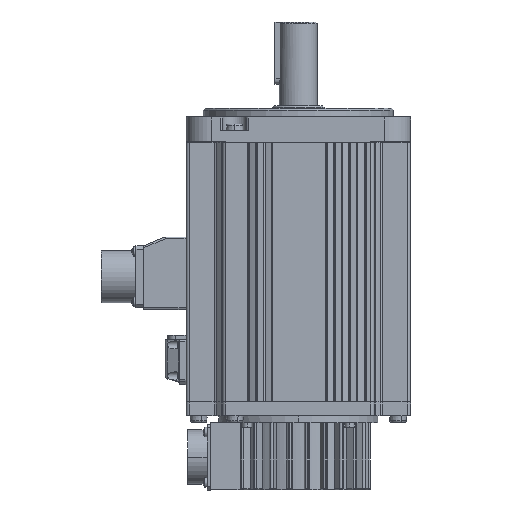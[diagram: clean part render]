
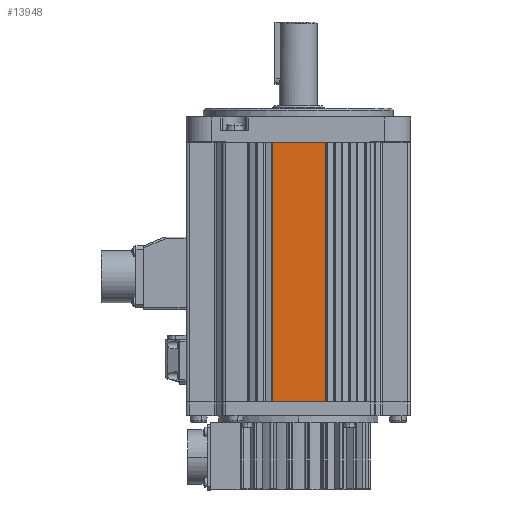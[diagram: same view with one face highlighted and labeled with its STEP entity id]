
A CAD part, left-side view. The second image highlights one B-rep face of the part: STEP entity #13948.
In plain terms, the highlighted planar face has unit normal (-1, 0, 0).
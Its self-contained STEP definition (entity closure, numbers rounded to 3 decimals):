
#13948 = ADVANCED_FACE ( 'NONE', ( #30070 ), #31517, .F. ) ;
#15583 = EDGE_CURVE ( 'NONE', #17645, #17646, #43874, .T. ) ;
#15755 = EDGE_CURVE ( 'NONE', #17715, #17674, #44106, .T. ) ;
#15922 = EDGE_CURVE ( 'NONE', #17645, #17715, #44335, .T. ) ;
#15923 = EDGE_CURVE ( 'NONE', #17674, #17646, #44337, .T. ) ;
#17645 = VERTEX_POINT ( 'NONE', #49150 ) ;
#17646 = VERTEX_POINT ( 'NONE', #49151 ) ;
#17674 = VERTEX_POINT ( 'NONE', #49179 ) ;
#17715 = VERTEX_POINT ( 'NONE', #49220 ) ;
#20577 = EDGE_LOOP ( 'NONE', ( #21482, #21483, #21484, #21485 ) ) ;
#21482 = ORIENTED_EDGE ( 'NONE', *, *, #15583, .F. ) ;
#21483 = ORIENTED_EDGE ( 'NONE', *, *, #15922, .T. ) ;
#21484 = ORIENTED_EDGE ( 'NONE', *, *, #15755, .T. ) ;
#21485 = ORIENTED_EDGE ( 'NONE', *, *, #15923, .T. ) ;
#27104 = AXIS2_PLACEMENT_3D ( 'NONE', #31511, #31519, #31520 ) ;
#30070 = FACE_OUTER_BOUND ( 'NONE', #20577, .T. ) ;
#31511 = CARTESIAN_POINT ( 'NONE',  ( -65., -65., -150. ) ) ;
#31517 = PLANE ( 'NONE',  #27104 ) ;
#31519 = DIRECTION ( 'NONE',  ( 1., 0., 0. ) ) ;
#31520 = DIRECTION ( 'NONE',  ( 0., 1., 0. ) ) ;
#43874 = LINE ( 'NONE', #44933, #43876 ) ;
#43876 = VECTOR ( 'NONE', #44934, 1000. ) ;
#44106 = LINE ( 'NONE', #45425, #44108 ) ;
#44108 = VECTOR ( 'NONE', #45427, 1000. ) ;
#44335 = LINE ( 'NONE', #45957, #44338 ) ;
#44337 = LINE ( 'NONE', #45959, #44340 ) ;
#44338 = VECTOR ( 'NONE', #45958, 1000. ) ;
#44340 = VECTOR ( 'NONE', #45960, 1000. ) ;
#44933 = CARTESIAN_POINT ( 'NONE',  ( -65., -65., -150. ) ) ;
#44934 = DIRECTION ( 'NONE',  ( 0., 1., 0. ) ) ;
#45425 = CARTESIAN_POINT ( 'NONE',  ( -65., -65., 0. ) ) ;
#45427 = DIRECTION ( 'NONE',  ( 0., 1., 0. ) ) ;
#45957 = CARTESIAN_POINT ( 'NONE',  ( -65., -15.9, 0. ) ) ;
#45958 = DIRECTION ( 'NONE',  ( 0., 0., 1. ) ) ;
#45959 = CARTESIAN_POINT ( 'NONE',  ( -65., 14.9, -150. ) ) ;
#45960 = DIRECTION ( 'NONE',  ( 0., 0., -1. ) ) ;
#49150 = CARTESIAN_POINT ( 'NONE',  ( -65., -15.9, -150. ) ) ;
#49151 = CARTESIAN_POINT ( 'NONE',  ( -65., 14.9, -150. ) ) ;
#49179 = CARTESIAN_POINT ( 'NONE',  ( -65., 14.9, 0. ) ) ;
#49220 = CARTESIAN_POINT ( 'NONE',  ( -65., -15.9, 0. ) ) ;
